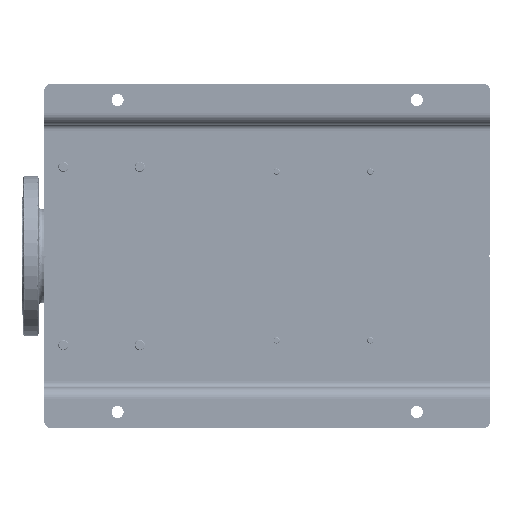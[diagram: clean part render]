
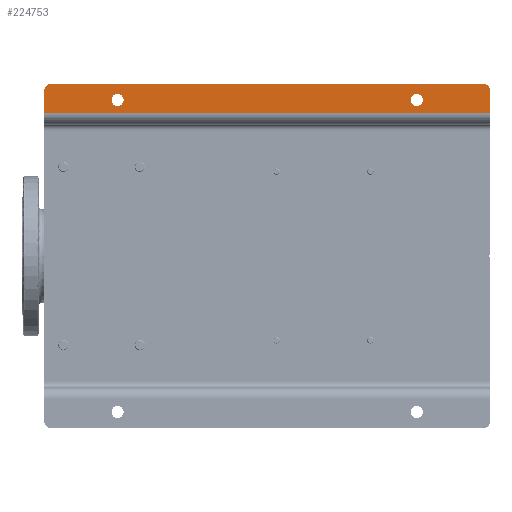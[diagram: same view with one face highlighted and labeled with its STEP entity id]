
A CAD part, front view. The second image highlights one B-rep face of the part: STEP entity #224753.
In plain terms, the highlighted planar face has unit normal (0, -1, 0).
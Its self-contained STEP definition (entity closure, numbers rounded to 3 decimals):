
#4010 = CARTESIAN_POINT ( 'NONE',  ( 495., 0., -700. ) ) ;
#6582 = CARTESIAN_POINT ( 'NONE',  ( 477., 0., 0. ) ) ;
#7278 = ORIENTED_EDGE ( 'NONE', *, *, #30795, .F. ) ;
#7459 = EDGE_LOOP ( 'NONE', ( #175370, #31984 ) ) ;
#11516 = VECTOR ( 'NONE', #62216, 1000. ) ;
#13794 = VERTEX_POINT ( 'NONE', #4010 ) ;
#13916 = VERTEX_POINT ( 'NONE', #152807 ) ;
#15289 = VERTEX_POINT ( 'NONE', #126582 ) ;
#22891 = LINE ( 'NONE', #6582, #191027 ) ;
#26932 = AXIS2_PLACEMENT_3D ( 'NONE', #27806, #118509, #95350 ) ;
#27329 = AXIS2_PLACEMENT_3D ( 'NONE', #224668, #207196, #44326 ) ;
#27336 = CARTESIAN_POINT ( 'NONE',  ( 477., 0., -700. ) ) ;
#27806 = CARTESIAN_POINT ( 'NONE',  ( 515., 0., -585. ) ) ;
#29867 = DIRECTION ( 'NONE',  ( 0., 0., -1. ) ) ;
#30795 = EDGE_CURVE ( 'NONE', #71047, #167406, #22891, .T. ) ;
#31984 = ORIENTED_EDGE ( 'NONE', *, *, #110732, .T. ) ;
#32495 = EDGE_LOOP ( 'NONE', ( #7278, #94042, #182700, #201424, #123575, #154842 ) ) ;
#37547 = DIRECTION ( 'NONE',  ( 0., 1., 0. ) ) ;
#38362 = EDGE_CURVE ( 'NONE', #192046, #15289, #91209, .T. ) ;
#44326 = DIRECTION ( 'NONE',  ( 0., 0., -1. ) ) ;
#45210 = EDGE_CURVE ( 'NONE', #54011, #110339, #168841, .T. ) ;
#46180 = CARTESIAN_POINT ( 'NONE',  ( 515., 0., -585. ) ) ;
#51523 = CARTESIAN_POINT ( 'NONE',  ( 515., 0., -115. ) ) ;
#53135 = CIRCLE ( 'NONE', #112609, 10. ) ;
#54011 = VERTEX_POINT ( 'NONE', #188182 ) ;
#58846 = CARTESIAN_POINT ( 'NONE',  ( 515., 0., -105.5 ) ) ;
#62216 = DIRECTION ( 'NONE',  ( 1., 0., 0. ) ) ;
#62481 = DIRECTION ( 'NONE',  ( 0., 0., -1. ) ) ;
#63839 = VECTOR ( 'NONE', #128392, 1000. ) ;
#67664 = EDGE_CURVE ( 'NONE', #110339, #54011, #67750, .T. ) ;
#67750 = CIRCLE ( 'NONE', #26932, 9.5 ) ;
#68110 = CARTESIAN_POINT ( 'NONE',  ( 495., 0., -700. ) ) ;
#71047 = VERTEX_POINT ( 'NONE', #148020 ) ;
#73676 = EDGE_CURVE ( 'NONE', #15289, #167406, #53135, .T. ) ;
#76489 = CARTESIAN_POINT ( 'NONE',  ( 515., 0., -575.5 ) ) ;
#78671 = DIRECTION ( 'NONE',  ( 1., 0., 0. ) ) ;
#78706 = EDGE_CURVE ( 'NONE', #71047, #13794, #189221, .T. ) ;
#90760 = AXIS2_PLACEMENT_3D ( 'NONE', #46180, #219651, #62481 ) ;
#91209 = LINE ( 'NONE', #107519, #63839 ) ;
#94042 = ORIENTED_EDGE ( 'NONE', *, *, #78706, .T. ) ;
#95350 = DIRECTION ( 'NONE',  ( 0., 0., -1. ) ) ;
#95493 = FACE_BOUND ( 'NONE', #102986, .T. ) ;
#102489 = VERTEX_POINT ( 'NONE', #58846 ) ;
#102986 = EDGE_LOOP ( 'NONE', ( #129822, #228606 ) ) ;
#107519 = CARTESIAN_POINT ( 'NONE',  ( 540., 0., -700. ) ) ;
#109244 = CIRCLE ( 'NONE', #27329, 10. ) ;
#109391 = AXIS2_PLACEMENT_3D ( 'NONE', #51523, #37547, #163180 ) ;
#109797 = CARTESIAN_POINT ( 'NONE',  ( 530., 0., 0. ) ) ;
#110339 = VERTEX_POINT ( 'NONE', #76489 ) ;
#110732 = EDGE_CURVE ( 'NONE', #158970, #102489, #155737, .T. ) ;
#112609 = AXIS2_PLACEMENT_3D ( 'NONE', #203385, #225387, #29867 ) ;
#114090 = DIRECTION ( 'NONE',  ( 0., -1., 0. ) ) ;
#117085 = DIRECTION ( 'NONE',  ( 0., 0., -1. ) ) ;
#118509 = DIRECTION ( 'NONE',  ( 0., 1., 0. ) ) ;
#123575 = ORIENTED_EDGE ( 'NONE', *, *, #38362, .T. ) ;
#126582 = CARTESIAN_POINT ( 'NONE',  ( 540., 0., -10. ) ) ;
#128392 = DIRECTION ( 'NONE',  ( 0., 0., 1. ) ) ;
#129822 = ORIENTED_EDGE ( 'NONE', *, *, #67664, .T. ) ;
#132694 = FACE_BOUND ( 'NONE', #7459, .T. ) ;
#133827 = FACE_OUTER_BOUND ( 'NONE', #32495, .T. ) ;
#135502 = LINE ( 'NONE', #27336, #11516 ) ;
#140294 = CARTESIAN_POINT ( 'NONE',  ( 515., 0., -124.5 ) ) ;
#142239 = CARTESIAN_POINT ( 'NONE',  ( 515., 0., -115. ) ) ;
#148020 = CARTESIAN_POINT ( 'NONE',  ( 495., 0., 0. ) ) ;
#150065 = EDGE_CURVE ( 'NONE', #13916, #192046, #109244, .T. ) ;
#152518 = CARTESIAN_POINT ( 'NONE',  ( 540., 0., -690. ) ) ;
#152807 = CARTESIAN_POINT ( 'NONE',  ( 530., 0., -700. ) ) ;
#154842 = ORIENTED_EDGE ( 'NONE', *, *, #73676, .T. ) ;
#155737 = CIRCLE ( 'NONE', #200320, 9.5 ) ;
#156226 = DIRECTION ( 'NONE',  ( 0., 1., 0. ) ) ;
#158970 = VERTEX_POINT ( 'NONE', #140294 ) ;
#163180 = DIRECTION ( 'NONE',  ( 0., 0., -1. ) ) ;
#164361 = EDGE_CURVE ( 'NONE', #102489, #158970, #209702, .T. ) ;
#167406 = VERTEX_POINT ( 'NONE', #109797 ) ;
#168841 = CIRCLE ( 'NONE', #90760, 9.5 ) ;
#175370 = ORIENTED_EDGE ( 'NONE', *, *, #164361, .T. ) ;
#182700 = ORIENTED_EDGE ( 'NONE', *, *, #203213, .T. ) ;
#188182 = CARTESIAN_POINT ( 'NONE',  ( 515., 0., -594.5 ) ) ;
#189221 = LINE ( 'NONE', #68110, #223443 ) ;
#191027 = VECTOR ( 'NONE', #78671, 1000. ) ;
#192046 = VERTEX_POINT ( 'NONE', #152518 ) ;
#199736 = AXIS2_PLACEMENT_3D ( 'NONE', #223450, #114090, #222302 ) ;
#200320 = AXIS2_PLACEMENT_3D ( 'NONE', #142239, #156226, #228386 ) ;
#201424 = ORIENTED_EDGE ( 'NONE', *, *, #150065, .T. ) ;
#203213 = EDGE_CURVE ( 'NONE', #13794, #13916, #135502, .T. ) ;
#203385 = CARTESIAN_POINT ( 'NONE',  ( 530., 0., -10. ) ) ;
#206007 = PLANE ( 'NONE',  #199736 ) ;
#207196 = DIRECTION ( 'NONE',  ( 0., -1., 0. ) ) ;
#209702 = CIRCLE ( 'NONE', #109391, 9.5 ) ;
#219651 = DIRECTION ( 'NONE',  ( 0., 1., 0. ) ) ;
#222302 = DIRECTION ( 'NONE',  ( 0., 0., -1. ) ) ;
#223443 = VECTOR ( 'NONE', #117085, 1000. ) ;
#223450 = CARTESIAN_POINT ( 'NONE',  ( 477., 0., -700. ) ) ;
#224668 = CARTESIAN_POINT ( 'NONE',  ( 530., 0., -690. ) ) ;
#224753 = ADVANCED_FACE ( 'NONE', ( #132694, #95493, #133827 ), #206007, .T. ) ;
#225387 = DIRECTION ( 'NONE',  ( 0., -1., 0. ) ) ;
#228386 = DIRECTION ( 'NONE',  ( 0., 0., -1. ) ) ;
#228606 = ORIENTED_EDGE ( 'NONE', *, *, #45210, .T. ) ;
